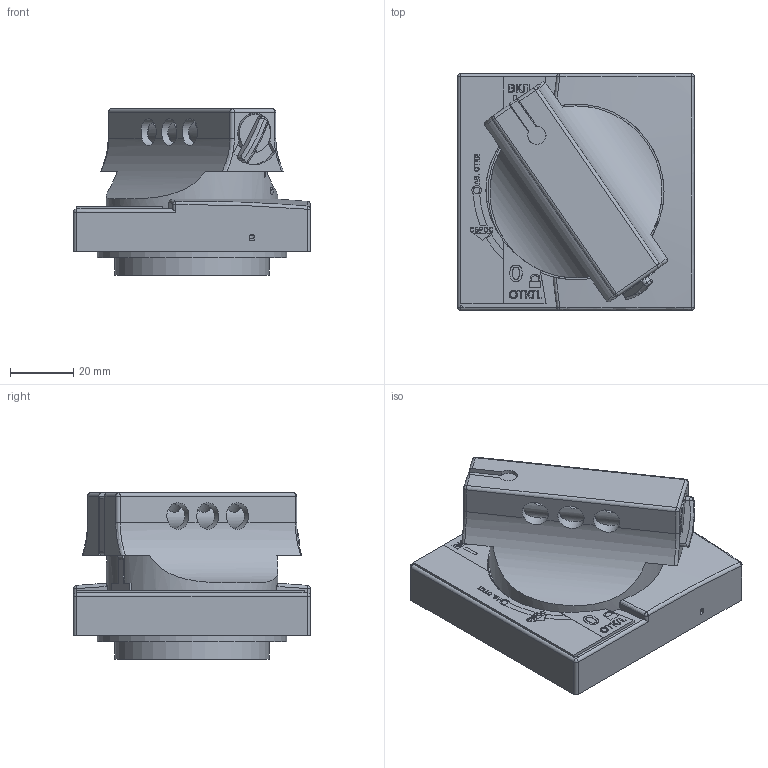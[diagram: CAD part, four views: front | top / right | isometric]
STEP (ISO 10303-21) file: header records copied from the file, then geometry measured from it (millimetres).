
FILE_DESCRIPTION(('STEP AP242'), '1');
FILE_NAME('Ðóêîÿòêà ïîâîðîòíàÿ', '', ('UNSPECIFIED'), ('UNSPECIFIED'), 'C3D Converter', 'C3D Toolkit', '');
FILE_SCHEMA(('AP242_MANAGED_MODEL_BASED_3D_ENGINEERING_MIM_LF { 1 0 10303 442 1 1 4 }'));
Length unit declared in the file: millimetre
Bounding box: 75 x 75 x 52.7 mm (x, y, z)
Volume: 80754 mm3; surface area: 73767.9 mm2
Topology: 1 solids, 1 shells, 2287 faces, 6594 edges, 4297 vertices
Faces by surface type: plane 1132, cylinder 1050, cone 32, bspline 29, torus 24, sphere 20
Full cylindrical faces by diameter (mm): 0.45 x1, 1.5 x2, 2 x1, 2.7 x1, 2.8 x3, 3 x4, 3.2 x3, 3.5 x1, 3.6 x1, 4 x1, 4.1 x2, 5 x2, 5.5 x1, 5.6 x2, 5.7 x1, 6.5 x1, 7.4 x2, 7.5 x1, 7.9 x2, 8 x1, 8.1 x2, 8.5 x11, 11 x1, 11.9 x2, 12.8 x1, 49 x1, 50 x1, 55.8 x1, 60 x1
Entity records: 109438 total; most frequent: CARTESIAN_POINT 30663, ORIENTED_EDGE 12962, DIRECTION 12639, EDGE_CURVE 6481, AXIS2_PLACEMENT_3D 4481, VERTEX_POINT 4294, LINE 3677, VECTOR 3677
